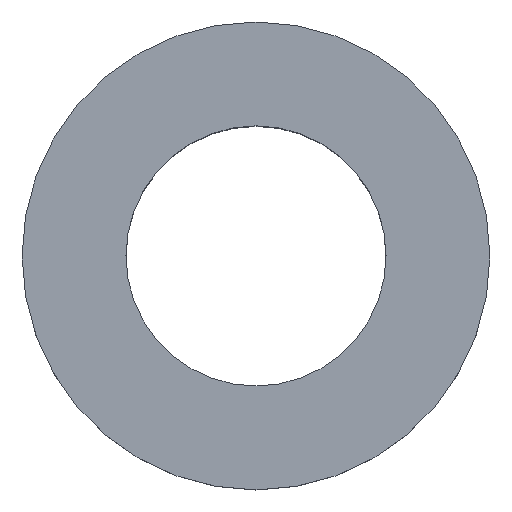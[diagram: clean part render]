
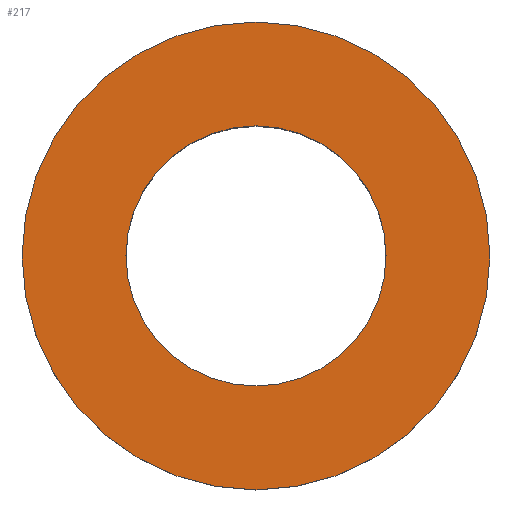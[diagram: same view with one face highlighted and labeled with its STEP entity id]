
A CAD part, top view. The second image highlights one B-rep face of the part: STEP entity #217.
In plain terms, the highlighted planar face has unit normal (0, 0, 1).
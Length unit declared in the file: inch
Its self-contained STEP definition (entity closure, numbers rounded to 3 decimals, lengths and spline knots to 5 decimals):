
#9 = CARTESIAN_POINT ( 'NONE',  ( 0., 0., 0. ) ) ;
#36 = AXIS2_PLACEMENT_3D ( 'NONE', #9, #132, #128 ) ;
#40 = DIRECTION ( 'NONE',  ( 0., 0., -1. ) ) ;
#46 = DIRECTION ( 'NONE',  ( 1., 0., 0. ) ) ;
#75 = CARTESIAN_POINT ( 'NONE',  ( 2.6063, 0., 0. ) ) ;
#91 = AXIS2_PLACEMENT_3D ( 'NONE', #186, #159, #46 ) ;
#96 = ORIENTED_EDGE ( 'NONE', *, *, #223, .T. ) ;
#105 = VERTEX_POINT ( 'NONE', #75 ) ;
#127 = CARTESIAN_POINT ( 'NONE',  ( 0., 1.44882, 0. ) ) ;
#128 = DIRECTION ( 'NONE',  ( 1., 0., 0. ) ) ;
#131 = CARTESIAN_POINT ( 'NONE',  ( 1.44882, 0., 0. ) ) ;
#132 = DIRECTION ( 'NONE',  ( 0., 0., 1. ) ) ;
#136 = FACE_BOUND ( 'NONE', #224, .T. ) ;
#146 = ORIENTED_EDGE ( 'NONE', *, *, #213, .F. ) ;
#159 = DIRECTION ( 'NONE',  ( 0., 0., 1. ) ) ;
#165 = CIRCLE ( 'NONE', #36, 2.6063 ) ;
#169 = PLANE ( 'NONE',  #197 ) ;
#181 = DIRECTION ( 'NONE',  ( -1., 0., 0. ) ) ;
#184 = EDGE_LOOP ( 'NONE', ( #96 ) ) ;
#186 = CARTESIAN_POINT ( 'NONE',  ( 0., 0., 0. ) ) ;
#187 = FACE_OUTER_BOUND ( 'NONE', #184, .T. ) ;
#197 = AXIS2_PLACEMENT_3D ( 'NONE', #127, #40, #181 ) ;
#210 = VERTEX_POINT ( 'NONE', #131 ) ;
#213 = EDGE_CURVE ( 'NONE', #210, #210, #229, .T. ) ;
#217 = ADVANCED_FACE ( 'NONE', ( #136, #187 ), #169, .F. ) ;
#223 = EDGE_CURVE ( 'NONE', #105, #105, #165, .T. ) ;
#224 = EDGE_LOOP ( 'NONE', ( #146 ) ) ;
#229 = CIRCLE ( 'NONE', #91, 1.44882 ) ;
